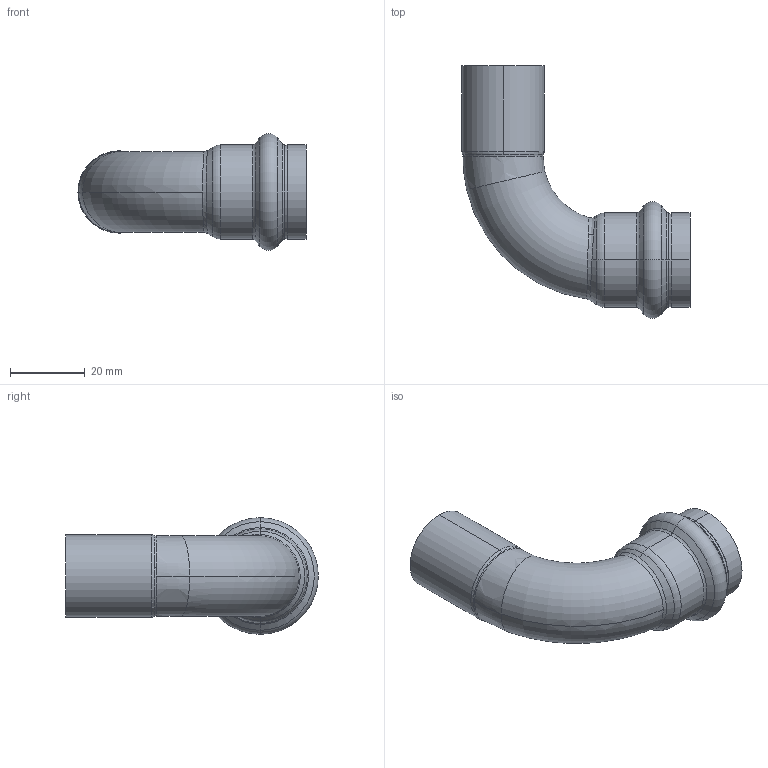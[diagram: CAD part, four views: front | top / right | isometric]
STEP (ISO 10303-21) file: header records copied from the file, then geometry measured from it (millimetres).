
FILE_DESCRIPTION (( 'STEP AP203' ), '1' );
FILE_NAME ('SP5001 Ø22.STEP', '2017-04-24T07:56:59', ( '' ), ( '' ), 'SwSTEP 2.0', 'SolidWorks 2016', '' );
FILE_SCHEMA (( 'CONFIG_CONTROL_DESIGN' ));
Length unit declared in the file: millimetre
Products named in the file (1): SP5001 ﾘ22
Bounding box: 61 x 67.6 x 31.2 mm (x, y, z)
Volume: 10120.8 mm3; surface area: 12809.6 mm2
Topology: 1 solids, 1 shells, 66 faces, 146 edges, 84 vertices
Faces by surface type: torus 24, cylinder 14, cone 14, bspline 10, plane 4
Entity records: 3627 total; most frequent: CARTESIAN_POINT 2127, DIRECTION 314, ORIENTED_EDGE 292, EDGE_CURVE 146, AXIS2_PLACEMENT_3D 143, CIRCLE 86, VERTEX_POINT 84, EDGE_LOOP 70
